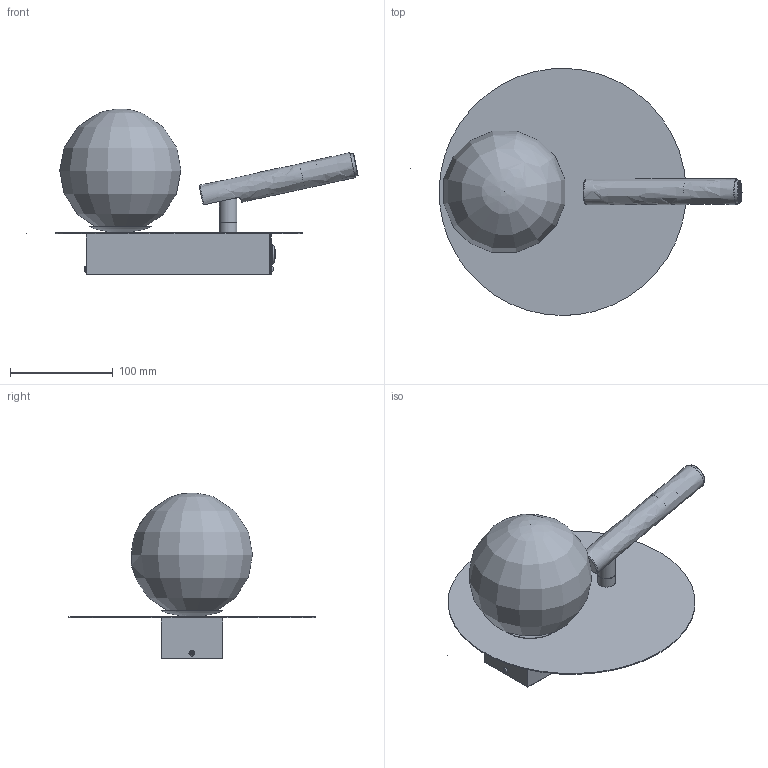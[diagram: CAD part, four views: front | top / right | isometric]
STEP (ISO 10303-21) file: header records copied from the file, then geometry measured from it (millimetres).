
FILE_DESCRIPTION ((), '1');
FILE_NAME ('C:\SIGMA\KINKIET MOOD E\KINKIET MOOD E.stp', '2026-04-15T12:55:37', ('Unknown'), ('Unknown'), 'HarmonyWare STEP v2.1.4', 'HarmonyWare Translators', '');
FILE_SCHEMA (('CONFIG_CONTROL_DESIGN'));
Length unit declared in the file: centimetre
Products named in the file (20): podsufitka; koło; mocowanie przycisk; button; ISO7380 Hex; żarówka; G91; klosz; podkloszówka; transparent
Assembly tree (19 placements, depth 2):
  (unnamed)
    podsufitka
    podsufitka
    koło
    mocowanie przycisk
    mocowanie przycisk
    button
    button
    (unnamed)
    ISO7380 Hex
    ISO7380 Hex
    żarówka
    G91
    G91
    klosz
    (unnamed)
    podkloszówka
    klosz
    transparent
    transparent
Bounding box: 322.47 x 239.89 x 161.22 mm (x, y, z)
Volume: 1513512.2 mm3; surface area: 222100.5 mm2
Topology: 17 solids, 19 shells, 377 faces, 906 edges, 552 vertices
Faces by surface type: bspline 377
Entity records: 25166 total; most frequent: CARTESIAN_POINT 17266, ORIENTED_EDGE 1654, EDGE_CURVE 890, B_SPLINE_CURVE_WITH_KNOTS 687, VERTEX_POINT 552, EDGE_LOOP 388, FACE_OUTER_BOUND 377, ADVANCED_FACE 377
